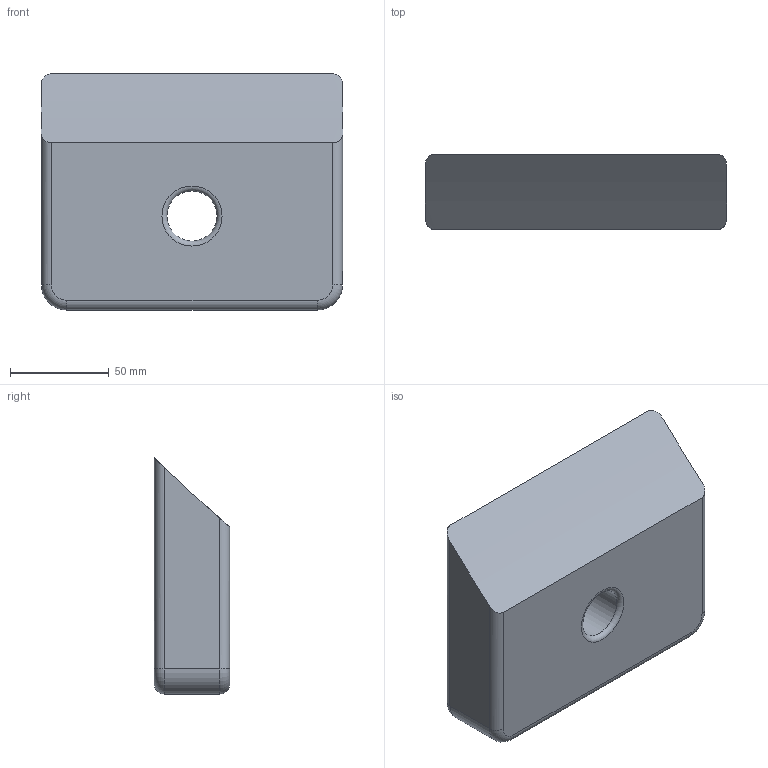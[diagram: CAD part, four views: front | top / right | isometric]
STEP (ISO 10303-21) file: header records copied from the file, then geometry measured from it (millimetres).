
FILE_DESCRIPTION( ( 'Unknown' ), '1' );
FILE_NAME( 'C:/Users/Lee/Documents/HGC Work/Solid Edge/heavy_gas_cherenkov_v5/step/mounting_bracket.stp', 'Unknown', ( 'Unknown' ), ( 'Unknown' ), 'PSStep 13.0', 'Unknown', ' ' );
FILE_SCHEMA( ( 'AUTOMOTIVE_DESIGN { 1 0 10303 214 1 1 1 1 }' ) );
Length unit declared in the file: millimetre
Products named in the file (1): 1
Bounding box: 152.4 x 38.1 x 119.54 mm (x, y, z)
Volume: 565088.7 mm3; surface area: 52338.7 mm2
Topology: 1 solids, 1 shells, 21 faces, 47 edges, 28 vertices
Faces by surface type: cylinder 10, torus 6, plane 5
Full cylindrical faces by diameter (mm): 25.4 x1
Entity records: 820 total; most frequent: CARTESIAN_POINT 166, DIRECTION 106, ORIENTED_EDGE 88, AXIS2_PLACEMENT_3D 44, EDGE_CURVE 44, VERTEX_POINT 28, EDGE_LOOP 26, FACE_OUTER_BOUND 24
